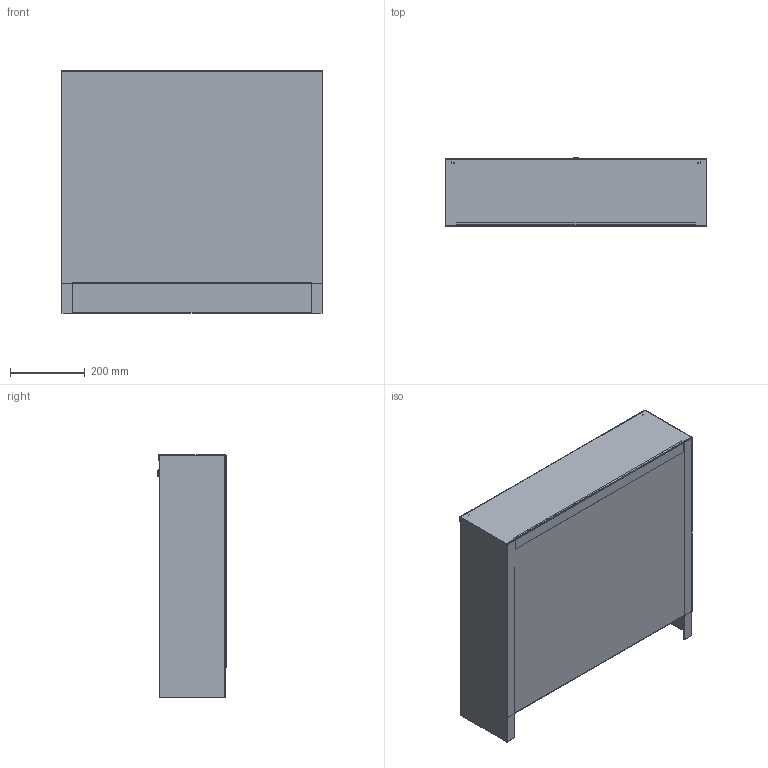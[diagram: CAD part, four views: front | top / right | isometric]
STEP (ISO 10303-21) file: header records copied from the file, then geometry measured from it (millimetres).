
FILE_DESCRIPTION(('TFLEX Exchange Step'),'2;1');
FILE_NAME('Manifold cabinet VTc.541.U.03 Valtec.stp', '2023-10-11T14:27:14+03:00',('denis'),('Unknown organisation'),'TFLEX Exchange 2023.0','T-FLEX CAD','Unknown authorisation');
FILE_SCHEMA( ('AUTOMOTIVE_DESIGN { 1 0 10303 214 1 1 1 1 }') );
Length unit declared in the file: millimetre
Products named in the file (1): Nodes
Bounding box: 700 x 182.5 x 650 mm (x, y, z)
Volume: 1264220 mm3; surface area: 2605579.4 mm2
Topology: 5 solids, 6 shells, 315 faces, 842 edges, 529 vertices
Faces by surface type: plane 205, cylinder 79, cone 23, bspline 6, torus 2
Full cylindrical faces by diameter (mm): 10 x1, 12 x1, 16 x1, 20 x2
Entity records: 11497 total; most frequent: CARTESIAN_POINT 3648, ORIENTED_EDGE 1684, DIRECTION 1550, EDGE_CURVE 842, VECTOR 574, LINE 574, VERTEX_POINT 529, AXIS2_PLACEMENT_3D 488
